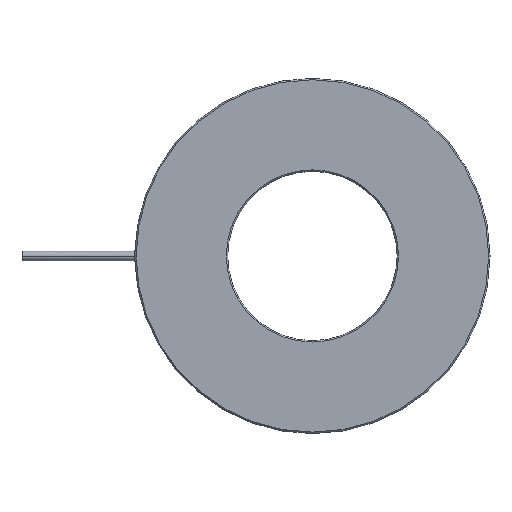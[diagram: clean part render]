
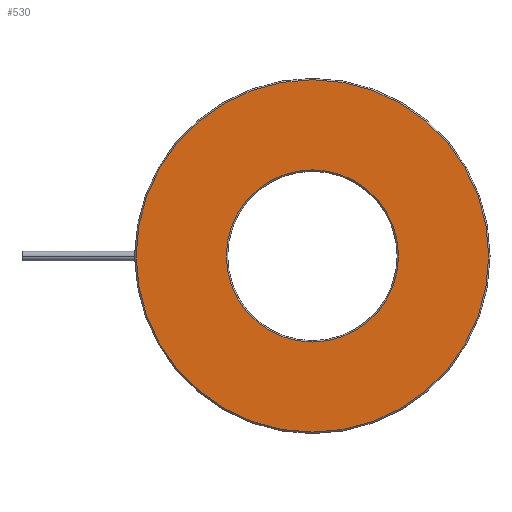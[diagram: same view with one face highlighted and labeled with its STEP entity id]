
A CAD part, top view. The second image highlights one B-rep face of the part: STEP entity #530.
In plain terms, the highlighted planar face has unit normal (0, 0, 1).
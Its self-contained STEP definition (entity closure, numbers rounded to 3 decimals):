
#101=CARTESIAN_POINT('',(0.,0.,22.));
#102=DIRECTION('',(0.,0.,1.));
#103=DIRECTION('',(1.,0.,0.));
#104=AXIS2_PLACEMENT_3D('',#101,#102,#103);
#106=CARTESIAN_POINT('',(0.,0.,22.));
#107=DIRECTION('',(0.,0.,1.));
#108=DIRECTION('',(-1.,0.,0.));
#109=AXIS2_PLACEMENT_3D('',#106,#107,#108);
#111=CARTESIAN_POINT('',(0.,0.,22.));
#112=DIRECTION('',(0.,0.,-1.));
#113=DIRECTION('',(-1.,0.,0.));
#114=AXIS2_PLACEMENT_3D('',#111,#112,#113);
#116=CARTESIAN_POINT('',(0.,0.,22.));
#117=DIRECTION('',(0.,0.,-1.));
#118=DIRECTION('',(1.,0.,0.));
#119=AXIS2_PLACEMENT_3D('',#116,#117,#118);
#339=CARTESIAN_POINT('',(64.5,0.,22.));
#340=CARTESIAN_POINT('',(-64.5,0.,22.));
#341=VERTEX_POINT('',#339);
#342=VERTEX_POINT('',#340);
#347=CARTESIAN_POINT('',(-31.5,0.,22.));
#348=CARTESIAN_POINT('',(31.5,0.,22.));
#349=VERTEX_POINT('',#347);
#350=VERTEX_POINT('',#348);
#514=CARTESIAN_POINT('',(0.,0.,22.));
#515=DIRECTION('',(0.,0.,1.));
#516=DIRECTION('',(1.,0.,0.));
#517=AXIS2_PLACEMENT_3D('',#514,#515,#516);
#518=PLANE('',#517);
#520=ORIENTED_EDGE('',*,*,#519,.F.);
#522=ORIENTED_EDGE('',*,*,#521,.F.);
#523=EDGE_LOOP('',(#520,#522));
#524=FACE_OUTER_BOUND('',#523,.F.);
#526=ORIENTED_EDGE('',*,*,#525,.F.);
#527=ORIENTED_EDGE('',*,*,#504,.F.);
#528=EDGE_LOOP('',(#526,#527));
#529=FACE_BOUND('',#528,.F.);
#105=CIRCLE('',#104,64.5);
#110=CIRCLE('',#109,64.5);
#115=CIRCLE('',#114,31.5);
#120=CIRCLE('',#119,31.5);
#504=EDGE_CURVE('',#350,#349,#120,.T.);
#519=EDGE_CURVE('',#341,#342,#105,.T.);
#521=EDGE_CURVE('',#342,#341,#110,.T.);
#525=EDGE_CURVE('',#349,#350,#115,.T.);
#530=ADVANCED_FACE('',(#524,#529),#518,.T.);
